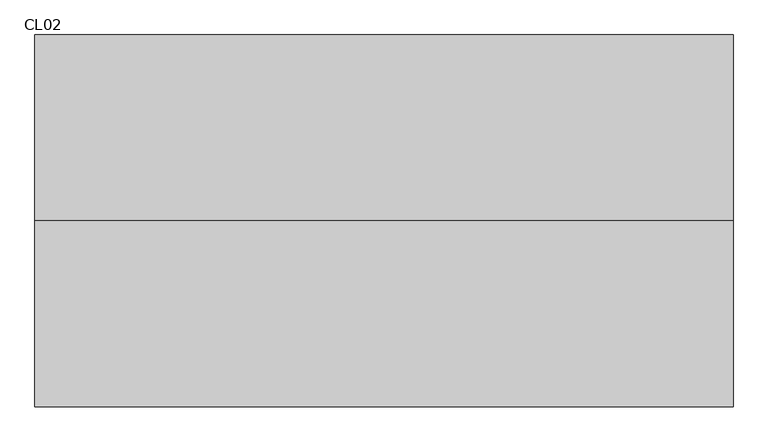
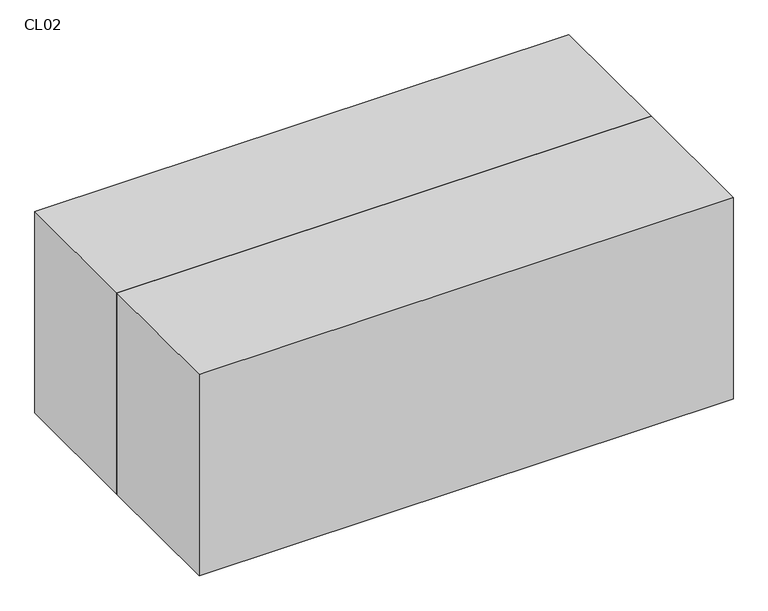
"""IFC4 building model written with IfcOpenShell, lengths in millimetres: proxy geometry, ARC_MDL_ME_Climatitzador 2P Mx1 r22 : CL02."""

from ifc_helpers import new_model, si_unit, origin, origin_with_axes, place, context, project, spatial, polyline, outline, extrude, source, transform, mapped, element, save


def cl02_82b1bd92(model_context):
    return source(origin(), model_context, "Body", "SweptSolid", [
        extrude(outline(polyline([(1795.5, -478.0), (1795.5, -1434.0), (-1795.5, -1434.0), (-1795.5, -478.0), (1795.5, -478.0)])), origin_with_axes(), (0.0, 0.0, 1.0), 1432.0),
        extrude(outline(polyline([(1795.5, 478.0), (1795.5, -478.0), (-1795.5, -478.0), (-1795.5, 478.0), (1795.5, 478.0)])), origin_with_axes(), (0.0, 0.0, 1.0), 1432.0),
    ])


if __name__ == "__main__":
    model = new_model("IFC4")
    model_context = context("Model", 3, world=origin())
    ifc_project = project(units=[si_unit("LENGTHUNIT", "METRE", prefix="MILLI")], contexts=[model_context])
    site = spatial("IfcSite", under=ifc_project)
    building = spatial("IfcBuilding", under=site)
    placement = place(None, origin())
    cl02_shape = cl02_82b1bd92(model_context)
    element("IfcBuildingElementProxy", 1, Name="ARC_MDL_ME_Climatitzador 2P Mx1 r22 : CL02", ObjectType="ARC_MDL_ME_Climatitzador 2P Mx1 r22 : CL02", at=placement, inside=building, context=model_context, shape_type="MappedRepresentation", body=[
        mapped(cl02_shape, transform((0.0, 0.0, 0.0), x_axis=(1.0, 0.0, 0.0), y_axis=(0.0, 1.0, 0.0), z_axis=(0.0, 0.0, 1.0))),
    ])
    save(model, "model.ifc")
